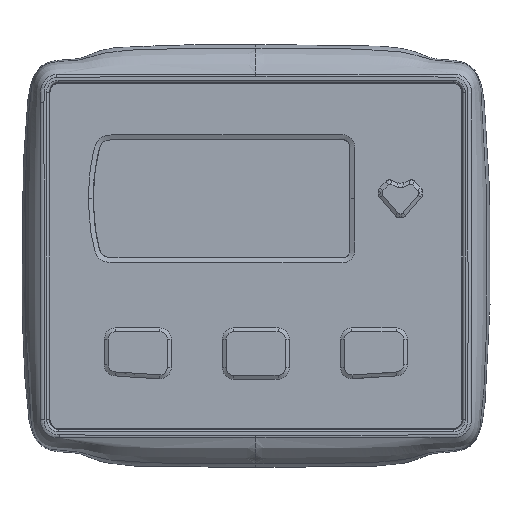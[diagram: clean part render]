
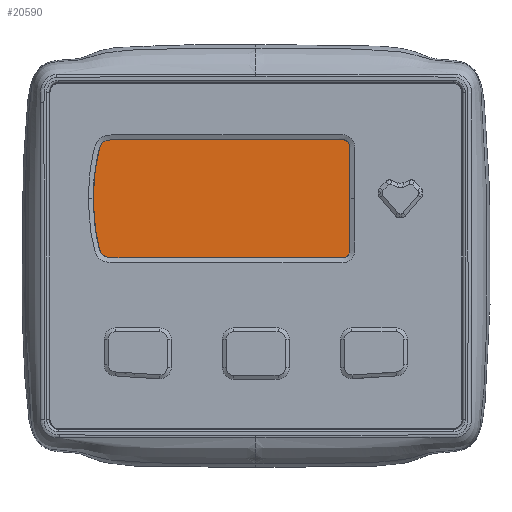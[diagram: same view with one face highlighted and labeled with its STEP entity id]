
A CAD part, front view. The second image highlights one B-rep face of the part: STEP entity #20590.
In plain terms, the highlighted planar face has unit normal (0, -1, 0).
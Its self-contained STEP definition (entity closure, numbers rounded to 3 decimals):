
#20269=DIRECTION('',(1.,0.,0.));
#20270=VECTOR('',#20269,45.2);
#20271=CARTESIAN_POINT('',(-27.6,-4.,
63.638));
#20272=LINE('',#20271,#20270);
#20273=CARTESIAN_POINT('',(17.6,-4.,
62.138));
#20274=DIRECTION('',(0.,1.,0.));
#20275=DIRECTION('',(0.,0.,1.));
#20276=AXIS2_PLACEMENT_3D('',#20273,#20274,#20275);
#20278=DIRECTION('',(0.,0.,-1.));
#20279=VECTOR('',#20278,21.);
#20280=CARTESIAN_POINT('',(19.1,-4.,
62.138));
#20281=LINE('',#20280,#20279);
#20282=CARTESIAN_POINT('',(17.6,-4.,
41.138));
#20283=DIRECTION('',(0.,1.,0.));
#20284=DIRECTION('',(1.,0.,0.));
#20285=AXIS2_PLACEMENT_3D('',#20282,#20283,#20284);
#20287=DIRECTION('',(-1.,0.,0.));
#20288=VECTOR('',#20287,45.2);
#20289=CARTESIAN_POINT('',(17.6,-4.,
39.638));
#20290=LINE('',#20289,#20288);
#20291=CARTESIAN_POINT('',(-27.6,-4.,
39.638));
#20292=CARTESIAN_POINT('',(-29.1,-4.,
39.638));
#20293=CARTESIAN_POINT('',(-31.1,-4.,
39.638));
#20294=CARTESIAN_POINT('',(-32.1,-4.,
41.638));
#20295=CARTESIAN_POINT('',(-33.6,-4.,
51.638));
#20296=CARTESIAN_POINT('',(-32.1,-4.,
61.638));
#20297=CARTESIAN_POINT('',(-31.1,-4.,
63.638));
#20298=CARTESIAN_POINT('',(-29.1,-4.,
63.638));
#20299=CARTESIAN_POINT('',(-27.6,-4.,
63.638));
#20364=CARTESIAN_POINT('',(-27.6,-4.,
63.638));
#20365=CARTESIAN_POINT('',(17.6,-4.,
63.638));
#20366=VERTEX_POINT('',#20364);
#20367=VERTEX_POINT('',#20365);
#20368=CARTESIAN_POINT('',(19.1,-4.,
62.138));
#20369=VERTEX_POINT('',#20368);
#20370=CARTESIAN_POINT('',(19.1,-4.,
41.138));
#20371=VERTEX_POINT('',#20370);
#20372=CARTESIAN_POINT('',(17.6,-4.,
39.638));
#20373=VERTEX_POINT('',#20372);
#20374=CARTESIAN_POINT('',(-27.6,-4.,
39.638));
#20375=VERTEX_POINT('',#20374);
#20572=CARTESIAN_POINT('',(24.321,-4.,
37.237));
#20573=DIRECTION('',(0.,-1.,0.));
#20574=DIRECTION('',(0.,0.,1.));
#20575=AXIS2_PLACEMENT_3D('',#20572,#20573,#20574);
#20576=PLANE('',#20575);
#20577=ORIENTED_EDGE('',*,*,#20562,.T.);
#20579=ORIENTED_EDGE('',*,*,#20578,.T.);
#20581=ORIENTED_EDGE('',*,*,#20580,.T.);
#20583=ORIENTED_EDGE('',*,*,#20582,.T.);
#20585=ORIENTED_EDGE('',*,*,#20584,.T.);
#20587=ORIENTED_EDGE('',*,*,#20586,.T.);
#20588=EDGE_LOOP('',(#20577,#20579,#20581,#20583,#20585,#20587));
#20589=FACE_OUTER_BOUND('',#20588,.F.);
#20590=ADVANCED_FACE('',(#20589),#20576,.T.);
#20277=CIRCLE('',#20276,1.5);
#20286=CIRCLE('',#20285,1.5);
#20300=B_SPLINE_CURVE_WITH_KNOTS('',3,(#20291,#20292,#20293,#20294,#20295,
#20296,#20297,#20298,#20299),.UNSPECIFIED.,.F.,.F.,(4,1,1,1,1,1,4),(0.,
0.167,0.333,0.5,0.667,
0.833,1.),.UNSPECIFIED.);
#20562=EDGE_CURVE('',#20366,#20367,#20272,.T.);
#20578=EDGE_CURVE('',#20367,#20369,#20277,.T.);
#20580=EDGE_CURVE('',#20369,#20371,#20281,.T.);
#20582=EDGE_CURVE('',#20371,#20373,#20286,.T.);
#20584=EDGE_CURVE('',#20373,#20375,#20290,.T.);
#20586=EDGE_CURVE('',#20375,#20366,#20300,.T.);
